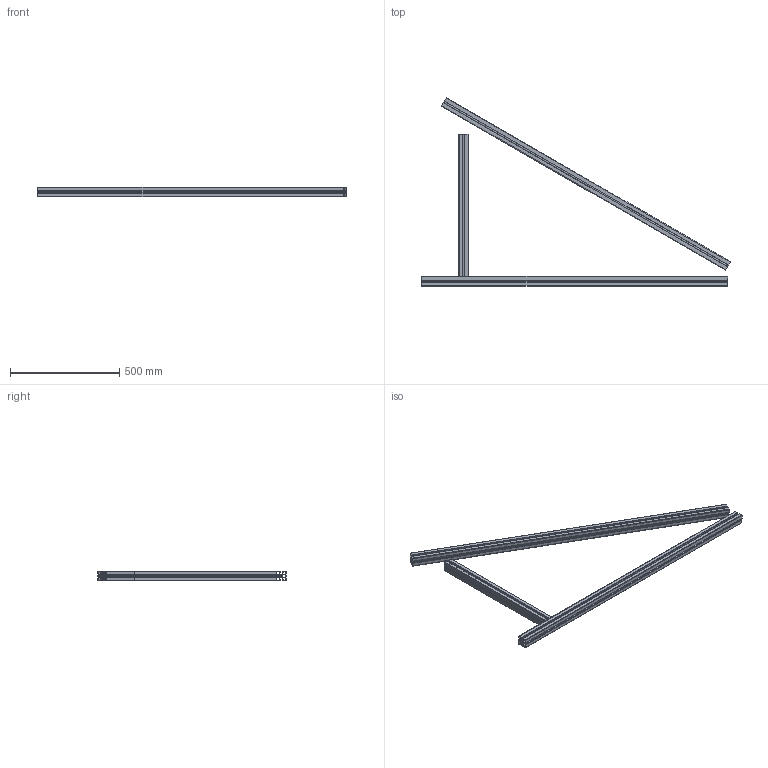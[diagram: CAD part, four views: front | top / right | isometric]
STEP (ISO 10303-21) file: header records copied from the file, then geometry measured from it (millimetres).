
FILE_DESCRIPTION (( 'STEP AP203' ), '1' );
FILE_NAME ('084.106.301.STEP', '2013-01-23T13:28:25', ( 'Alusic' ), ( 'Alusic' ), 'SwSTEP 2.0', 'SolidWorks 2011', '' );
FILE_SCHEMA (( 'CONFIG_CONTROL_DESIGN' ));
Length unit declared in the file: millimetre
Products named in the file (1): 084.106.301
Bounding box: 1412.5 x 862.62 x 45 mm (x, y, z)
Volume: 1515195 mm3; surface area: 2178665.9 mm2
Topology: 3 solids, 3 shells, 443 faces, 1302 edges, 864 vertices
Faces by surface type: plane 241, cylinder 202
Entity records: 14962 total; most frequent: CARTESIAN_POINT 2749, ORIENTED_EDGE 2604, DIRECTION 2532, EDGE_CURVE 1302, VECTOR 902, LINE 902, VERTEX_POINT 864, AXIS2_PLACEMENT_3D 815
